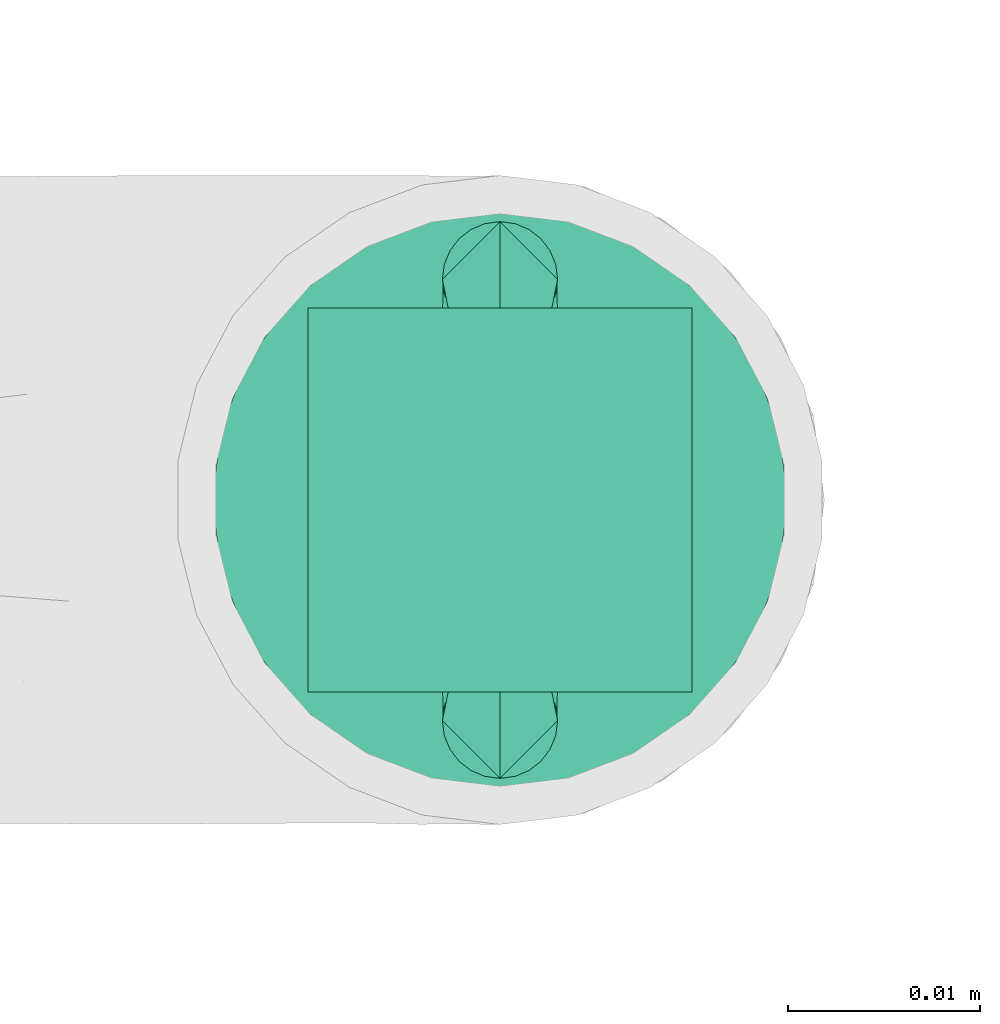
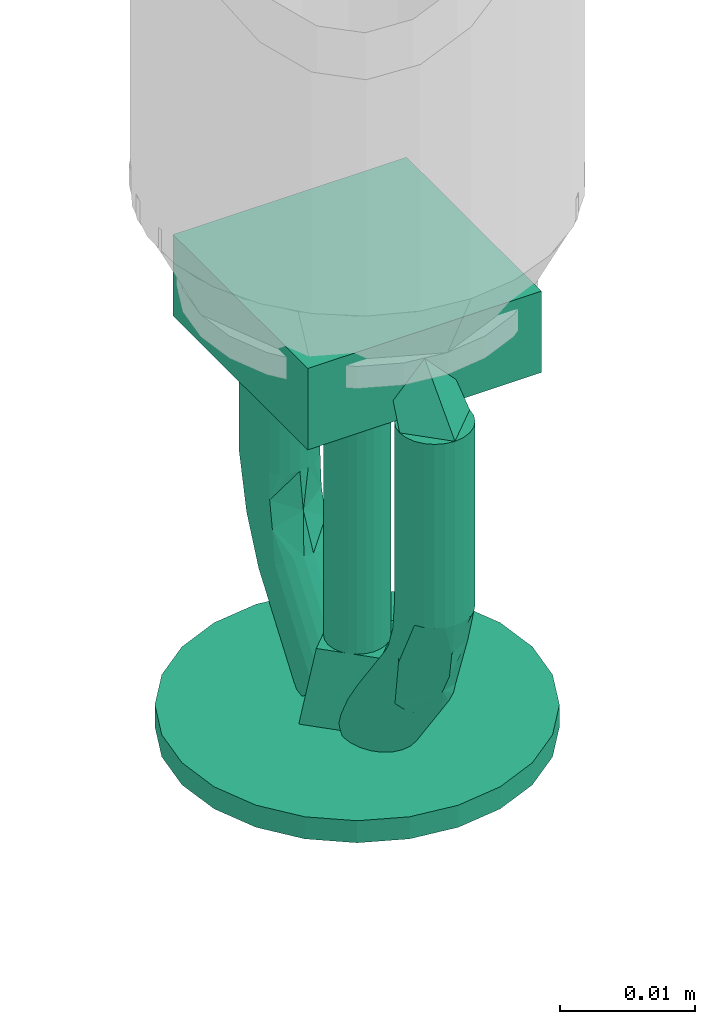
# One storey, part 14 of 43: 1 flow terminal.
"""IFC2X3 building model written with IfcOpenShell, lengths in millimetres."""

import ifcopenshell
import ifcopenshell.guid

model = None  # the IFC model being written
_history = None  # IfcOwnerHistory: only IFC2X3 demands one
_inside = {}  # id of a spatial element -> (the spatial element, [elements in it])
_under = {}  # id of a project, library or spatial element -> (it, [spatial elements below it])
_declared = {}  # id of a project -> (the project, [libraries it declares])
_typed = {}  # id of a type object -> (the type object, [elements of that type])
_made_of = {}  # id of a material, layer set ... -> (it, [elements and type objects made of it])


def new_model(schema):
    """Start an empty IFC model of exactly this schema.

    Asked for "IFC4X3", IfcOpenShell would pick the latest addendum, in which some entities
    have other attributes; the version numbers below select the first issue.
    IFC2X3 requires an IfcOwnerHistory on every rooted entity: one is made here for all.
    """
    global model, _history
    if schema == "IFC4X3":
        model = ifcopenshell.file(schema_version=(4, 3, 0, 0))
    else:
        model = ifcopenshell.file(schema=schema)
    _inside.clear()
    _under.clear()
    _declared.clear()
    _typed.clear()
    _made_of.clear()
    _history = None
    if model.schema == "IFC2X3":
        org = make("IfcOrganization", Name="unknown")
        user = make(
            "IfcPersonAndOrganization",
            ThePerson=make("IfcPerson", FamilyName="unknown"),
            TheOrganization=org,
        )
        app = make(
            "IfcApplication",
            ApplicationDeveloper=org,
            Version="unknown",
            ApplicationFullName="unknown",
            ApplicationIdentifier="unknown",
        )
        _history = make(
            "IfcOwnerHistory",
            OwningUser=user,
            OwningApplication=app,
            ChangeAction="ADDED",
            CreationDate=0,
        )
    return model


def make(cls, **values):
    """One entity of the class cls with the attributes given. An attribute that is None is left unset."""
    return model.create_entity(
        cls, **{name: value for name, value in values.items() if value is not None}
    )


def entity(cls, *values):
    """Any entity or typed value of the class cls, its attributes in the order of the schema. None: left unset."""
    e = model.create_entity(cls)
    for i, value in enumerate(values):
        if value is not None:
            e[i] = value
    return e


def rooted(cls, **values):
    """An entity with a GlobalId (a new one), such as an element, a storey or a relation."""
    return make(cls, GlobalId=ifcopenshell.guid.new(), OwnerHistory=_history, **values)


def si_unit(unit_type, name, prefix=None):
    """IfcSIUnit, for example si_unit("LENGTHUNIT", "METRE", prefix="MILLI")."""
    return make("IfcSIUnit", UnitType=unit_type, Prefix=prefix, Name=name)


def converted_unit(unit_type, name, factor, base, dimensions=None, offset=None):
    """IfcConversionBasedUnit, such as the inch: factor (a typed value) times the base unit."""
    return make(
        "IfcConversionBasedUnit"
        if offset is None
        else "IfcConversionBasedUnitWithOffset",
        ConversionOffset=offset,
        Dimensions=None
        if dimensions is None
        else entity("IfcDimensionalExponents", *dimensions),
        UnitType=unit_type,
        Name=name,
        ConversionFactor=make(
            "IfcMeasureWithUnit", ValueComponent=factor, UnitComponent=base
        ),
    )


def derived_unit(unit_type, elements):
    """IfcDerivedUnit: a product of units, each with its exponent."""
    return make(
        "IfcDerivedUnit",
        Elements=[
            make("IfcDerivedUnitElement", Unit=unit, Exponent=power)
            for unit, power in elements
        ],
        UnitType=unit_type,
    )


def assignment(units):
    """IfcUnitAssignment: the units of a project."""
    return None if units is None else make("IfcUnitAssignment", Units=units)


def point(xyz):
    """IfcCartesianPoint."""
    return None if xyz is None else make("IfcCartesianPoint", Coordinates=xyz)


def direction(xyz):
    """IfcDirection."""
    return None if xyz is None else make("IfcDirection", DirectionRatios=xyz)


def frame(location, z_axis=None, x_axis=None):
    """IfcAxis2Placement3D, a coordinate frame: its origin and axes. An axis left out is left unset."""
    return make(
        "IfcAxis2Placement3D",
        Location=point(location),
        Axis=direction(z_axis),
        RefDirection=direction(x_axis),
    )


def origin_with_axes():
    """The frame at (0, 0, 0) with the z axis (0, 0, 1) and the x axis (1, 0, 0) written out."""
    return frame((0.0, 0.0, 0.0), z_axis=(0.0, 0.0, 1.0), x_axis=(1.0, 0.0, 0.0))


def place(relative_to, where):
    """IfcLocalPlacement: puts the frame where relative to a parent placement (None: the world)."""
    return make(
        "IfcLocalPlacement", PlacementRelTo=relative_to, RelativePlacement=where
    )


def context(
    kind, dimensions, precision=None, world=None, true_north=None, identifier=None
):
    """IfcGeometricRepresentationContext, for example the 3D "Model" context."""
    return make(
        "IfcGeometricRepresentationContext",
        ContextIdentifier=identifier,
        ContextType=kind,
        CoordinateSpaceDimension=dimensions,
        Precision=precision,
        WorldCoordinateSystem=world,
        TrueNorth=true_north,
    )


def subcontext(parent, identifier, kind, view, scale=None):
    """IfcGeometricRepresentationSubContext, for example "Body" below "Model"."""
    return make(
        "IfcGeometricRepresentationSubContext",
        ContextIdentifier=identifier,
        ContextType=kind,
        ParentContext=parent,
        TargetScale=scale,
        TargetView=view,
    )


def project(units=None, contexts=None):
    """IfcProject with its units and contexts."""
    return rooted(
        "IfcProject",
        Name="project",
        RepresentationContexts=contexts,
        UnitsInContext=assignment(units),
    )


def spatial(cls, under=None, at=None, **own):
    """A site, building, storey or space (cls), placed at a placement, below another one or the project."""
    s = rooted(cls, ObjectPlacement=at, **own)
    if under is not None:
        _under.setdefault(under.id(), (under, []))[1].append(s)
    return s


def faces_of(points, faces, orient=None, outer=None):
    """IfcFace entities. A face is a list of loops; a loop is a list of indices into points, from 0.

    orient and outer hold one flag for each loop. By default every Orientation is true, the
    first loop of a face is its IfcFaceOuterBound and the others are IfcFaceBound.
    """
    made = []
    for i, loops in enumerate(faces):
        bounds = []
        for j, loop in enumerate(loops):
            is_outer = j == 0 if outer is None else outer[i][j]
            bounds.append(
                make(
                    "IfcFaceOuterBound" if is_outer else "IfcFaceBound",
                    Bound=make("IfcPolyLoop", Polygon=[points[k] for k in loop]),
                    Orientation=True if orient is None else orient[i][j],
                )
            )
        made.append(make("IfcFace", Bounds=bounds))
    return made


def open_shell(faces, orient=None, outer=None):
    """The faces of one IfcOpenShell. surface_model builds it on its shared points."""
    return ("IfcOpenShell", faces, orient, outer)


def surface_model(cls, points, shells):
    """IfcFaceBasedSurfaceModel or IfcShellBasedSurfaceModel (cls): surfaces that need not close."""
    shared = [point(p) for p in points]
    made = [make(c, CfsFaces=faces_of(shared, fs, o, b)) for c, fs, o, b in shells]
    if cls == "IfcFaceBasedSurfaceModel":
        return make(cls, FbsmFaces=made)
    return make(cls, SbsmBoundary=made)


def shape(context_of_items, identifier, shape_type, items):
    """IfcShapeRepresentation: the items that make up one representation, for example the "Body"."""
    return make(
        "IfcShapeRepresentation",
        ContextOfItems=context_of_items,
        RepresentationIdentifier=identifier,
        RepresentationType=shape_type,
        Items=items,
    )


def source(mapping_origin, context_of_items, identifier, shape_type, items):
    """IfcRepresentationMap: a shape defined once, which mapped items show again and again."""
    return make(
        "IfcRepresentationMap",
        MappingOrigin=mapping_origin,
        MappedRepresentation=shape(context_of_items, identifier, shape_type, items),
    )


def transform(
    local_origin,
    x_axis=None,
    y_axis=None,
    z_axis=None,
    scale=None,
    scale2=None,
    scale3=None,
    uniform=True,
):
    """IfcCartesianTransformationOperator3D, or its non-uniform kind. x_axis, y_axis, z_axis: its Axis1, 2, 3."""
    if uniform:
        return make(
            "IfcCartesianTransformationOperator3D",
            Axis1=direction(x_axis),
            Axis2=direction(y_axis),
            LocalOrigin=point(local_origin),
            Scale=scale,
            Axis3=direction(z_axis),
        )
    return make(
        "IfcCartesianTransformationOperator3DnonUniform",
        Axis1=direction(x_axis),
        Axis2=direction(y_axis),
        LocalOrigin=point(local_origin),
        Scale=scale,
        Axis3=direction(z_axis),
        Scale2=scale2,
        Scale3=scale3,
    )


def mapped(mapping_source, mapping_target):
    """IfcMappedItem: shows the shape of a source again, moved by a transform."""
    return make(
        "IfcMappedItem", MappingSource=mapping_source, MappingTarget=mapping_target
    )


def made_of(thing, what):
    """Note that an element or type object is made of a material, layer set ...; save() writes the relation."""
    if what is not None:
        _made_of.setdefault(what.id(), (what, []))[1].append(thing)
    return thing


def type_object(cls, material=None, **own):
    """A type object (cls), such as IfcWallType, which elements share."""
    return made_of(rooted(cls, **own), material)


def element(
    cls,
    number,
    at=None,
    inside=None,
    cuts=None,
    type_object=None,
    material=None,
    context=None,
    identifier="Body",
    shape_type=None,
    held_by="IfcProductDefinitionShape",
    body=None,
    shapes=None,
    **own,
):
    """One element of the class cls, such as IfcWall. Its Tag is "e" and its number.

    at: its placement. inside: the storey or other place that contains it. cuts: it is an
    opening in that element (IfcRelVoidsElement). A single representation is given by context,
    identifier, shape_type and body (its items); several are given by shapes. held_by: the class
    of the entity that holds the representations. save() writes the other relations.
    """
    e = rooted(cls, Tag="e%d" % number, ObjectPlacement=at, **own)
    if body is not None:
        shapes = [shape(context, identifier, shape_type, body)]
    if shapes is not None:
        e.Representation = make(held_by, Representations=shapes)
    if inside is not None:
        _inside.setdefault(inside.id(), (inside, []))[1].append(e)
    if cuts is not None:
        rooted(
            "IfcRelVoidsElement", RelatingBuildingElement=cuts, RelatedOpeningElement=e
        )
    if type_object is not None:
        _typed.setdefault(type_object.id(), (type_object, []))[1].append(e)
    return made_of(e, material)


def aggregate(whole, parts):
    """IfcRelAggregates: a whole, such as a stair, and the parts it consists of."""
    return rooted("IfcRelAggregates", RelatingObject=whole, RelatedObjects=parts)


def save(model, path):
    """Write the relations noted so far, then the file.

    IfcRelAggregates (storeys below a building ...), IfcRelContainedInSpatialStructure (elements
    in a storey), IfcRelDefinesByType, IfcRelAssociatesMaterial and IfcRelDeclares: one each for
    every whole, place, type object, material and project.
    """
    for whole, parts in _under.values():
        aggregate(whole, parts)
    for where, things in _inside.values():
        rooted(
            "IfcRelContainedInSpatialStructure",
            RelatedElements=things,
            RelatingStructure=where,
        )
    for kind, things in _typed.values():
        rooted("IfcRelDefinesByType", RelatedObjects=things, RelatingType=kind)
    for what, things in _made_of.values():
        rooted("IfcRelAssociatesMaterial", RelatedObjects=things, RelatingMaterial=what)
    for by, libraries in _declared.values():
        rooted("IfcRelDeclares", RelatingContext=by, RelatedDefinitions=libraries)
    model.write(path)


model = new_model("IFC2X3")

# Units and contexts
model_context = context("Model", 3, precision=0.01, world=frame((0.0, 4.29681676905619e-09, 0.0)), true_north=direction((4.01073788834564e-13, 1.0)))
plan_context = context("Plan", 3, precision=0.01, world=frame((0.0, 4.29681676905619e-09, 0.0)), true_north=direction((4.01073788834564e-13, 1.0)))
body_context = subcontext(model_context, "Body", "Model", "MODEL_VIEW")
ifc_project = project(units=[converted_unit("PLANEANGLEUNIT", "DEGREE", entity("IfcPositiveLengthMeasure", 0.0174532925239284), si_unit("PLANEANGLEUNIT", "RADIAN"), dimensions=[0, 0, 0, 0, 0, 0, 0]), si_unit("AREAUNIT", "SQUARE_METRE"), si_unit("LENGTHUNIT", "METRE", prefix="MILLI"), si_unit("MASSUNIT", "GRAM", prefix="KILO"), si_unit("POWERUNIT", "WATT"), si_unit("PRESSUREUNIT", "PASCAL"), si_unit("FORCEUNIT", "NEWTON", prefix="KILO"), si_unit("ELECTRICVOLTAGEUNIT", "VOLT"), si_unit("ELECTRICCURRENTUNIT", "AMPERE"), si_unit("THERMODYNAMICTEMPERATUREUNIT", "DEGREE_CELSIUS"), si_unit("TIMEUNIT", "SECOND"), si_unit("VOLUMEUNIT", "CUBIC_METRE"), derived_unit("LINEARVELOCITYUNIT", [(si_unit("LENGTHUNIT", "METRE"), 1), (si_unit("TIMEUNIT", "SECOND"), -1)]), derived_unit("VOLUMETRICFLOWRATEUNIT", [(si_unit("VOLUMEUNIT", "CUBIC_METRE"), 1), (si_unit("TIMEUNIT", "SECOND"), -1)]), derived_unit("THERMALTRANSMITTANCEUNIT", [(si_unit("POWERUNIT", "WATT"), 1), (si_unit("THERMODYNAMICTEMPERATUREUNIT", "KELVIN"), -1), (si_unit("AREAUNIT", "SQUARE_METRE"), -1)]), derived_unit("SOUNDPRESSUREUNIT", [(si_unit("PRESSUREUNIT", "PASCAL"), 1)])], contexts=[model_context, plan_context])

# Site, building, storey
site_placement = place(None, frame((0.0, -4.29681676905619e-09, 0.0), z_axis=(0.0, 0.0, 1.0), x_axis=(1.0, 0.0, 0.0)))
site = spatial("IfcSite", under=ifc_project, at=site_placement, CompositionType="ELEMENT")
building_placement = place(site_placement, frame((0.0, 4.29681676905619e-09, 0.0), z_axis=(0.0, 0.0, 1.0), x_axis=(1.0, 0.0, 0.0)))
building = spatial("IfcBuilding", under=site, at=building_placement, Name="mc-building", CompositionType="ELEMENT")
storey_placement = place(building_placement, frame((0.0, 0.0, 210900.0), z_axis=(0.0, 0.0, 1.0), x_axis=(1.0, 0.0, 0.0)))
storey = spatial("IfcBuildingStorey", under=building, at=storey_placement, Name="Nivå F", CompositionType="ELEMENT", Elevation=210900.0)

# Flow terminal
fire_suppression_terminal_type = type_object("IfcFireSuppressionTerminalType", Name="BLP-K115-141C-STD", PredefinedType="NOTDEFINED")
shared_shape = source(origin_with_axes(), body_context, "Body", "SurfaceModel", [
    surface_model("IfcShellBasedSurfaceModel", [(10.0, 10.0, 7.36842), (-10.0, 10.0, 7.36842), (-10.0, -10.0, 7.36842), (10.0, -10.0, 7.36842), (10.0, -10.0, 0.0), (-10.0, -10.0, 0.0), (-10.0, 10.0, 0.0), (10.0, 10.0, 0.0), (3.88229, -14.48889, 42.0), (-3.88229, -14.48889, 42.0), (0.0, -15.0, 42.0), (14.48889, -3.88229, 42.0), (7.5, -12.99038, 42.0), (12.99038, -7.5, 42.0), (10.6066, -10.6066, 42.0), (-10.6066, -10.6066, 42.0), (-7.5, -12.99038, 42.0), (-14.48889, -3.88229, 42.0), (-12.99038, -7.5, 42.0), (-12.99038, 7.5, 42.0), (-15.0, 0.0, 42.0), (14.48889, 3.88229, 42.0), (3.88229, 14.48889, 42.0), (12.99038, 7.5, 42.0), (10.6066, 10.6066, 42.0), (7.5, 12.99038, 42.0), (-7.5, 12.99038, 42.0), (-10.6066, 10.6066, 42.0), (-14.48889, 3.88229, 42.0), (0.0, 15.0, 42.0), (-3.88229, 14.48889, 42.0), (15.0, 0.0, 42.0), (10.6066, 10.6066, 40.0), (0.0, 15.0, 40.0), (3.88229, 14.48889, 40.0), (7.5, 12.99038, 40.0), (12.99038, 7.5, 40.0), (14.48889, 3.88229, 40.0), (-15.0, 0.0, 40.0), (-7.5, 12.99038, 40.0), (-12.99038, 7.5, 40.0), (-10.6066, 10.6066, 40.0), (-3.88229, 14.48889, 40.0), (-14.48889, 3.88229, 40.0), (15.0, 0.0, 40.0), (14.48889, -3.88229, 40.0), (-3.88229, -14.48889, 40.0), (3.88229, -14.48889, 40.0), (12.99038, -7.5, 40.0), (7.5, -12.99038, 40.0), (10.6066, -10.6066, 40.0), (-14.48889, -3.88229, 40.0), (-10.6066, -10.6066, 40.0), (-12.99038, -7.5, 40.0), (-7.5, -12.99038, 40.0), (0.0, -15.0, 40.0), (0.0, -2.5, 33.68421), (0.64705, -2.41481, 33.68421), (1.25, -2.16506, 33.68421), (-1.25, -2.16506, 33.68421), (2.16506, -1.25, 33.68421), (1.76777, -1.76777, 33.68421), (-1.25, 2.16506, 33.68421), (-2.16506, -1.25, 33.68421), (-1.76777, -1.76777, 33.68421), (-0.64705, -2.41481, 33.68421), (-2.41481, -0.64705, 33.68421), (-2.5, 0.0, 33.68421), (-2.41481, 0.64705, 33.68421), (2.41481, -0.64705, 33.68421), (1.25, 2.16506, 33.68421), (2.5, 0.0, 33.68421), (2.41481, 0.64705, 33.68421), (1.76777, 1.76777, 33.68421), (2.16506, 1.25, 33.68421), (0.64705, 2.41481, 33.68421), (-1.76777, 1.76777, 33.68421), (-2.16506, 1.25, 33.68421), (0.0, 2.5, 33.68421), (-0.64705, 2.41481, 33.68421), (0.0, 2.5, 7.36842), (0.64705, 2.41481, 7.36842), (1.25, 2.16506, 7.36842), (-1.25, 2.16506, 7.36842), (1.76777, 1.76777, 7.36842), (2.16506, 1.25, 7.36842), (2.41481, 0.64705, 7.36842), (-2.41481, 0.64705, 7.36842), (-1.76777, 1.76777, 7.36842), (-0.64705, 2.41481, 7.36842), (-2.16506, 1.25, 7.36842), (-2.5, 0.0, 7.36842), (2.5, 0.0, 7.36842), (2.41481, -0.64705, 7.36842), (2.16506, -1.25, 7.36842), (-1.25, -2.16506, 7.36842), (1.25, -2.16506, 7.36842), (1.76777, -1.76777, 7.36842), (0.0, -2.5, 7.36842), (0.64705, -2.41481, 7.36842), (-2.16506, -1.25, 7.36842), (-1.76777, -1.76777, 7.36842), (-2.41481, -0.64705, 7.36842), (-0.64705, -2.41481, 7.36842), (0.0, -5.0, 40.0), (5.0, 0.0, 40.0), (-5.0, 0.0, 40.0), (0.0, 5.0, 40.0), (3.5, 0.0, 33.68421), (0.0, -3.5, 33.68421), (0.0, 3.5, 33.68421), (-3.5, 0.0, 33.68421), (13.0, -2.59808, 7.36842), (12.27646, -2.89778, 7.36842), (11.5, -3.0, 7.36842), (10.72354, -2.89778, 7.36842), (14.09808, -1.5, 7.36842), (13.62132, -2.12132, 7.36842), (14.39778, -0.77646, 7.36842), (10.0, -2.59808, 7.36842), (9.37868, -2.12132, 7.36842), (8.60222, -0.77646, 7.36842), (8.90192, -1.5, 7.36842), (8.5, 0.0, 7.36842), (8.60222, 0.77646, 7.36842), (14.5, 0.0, 7.36842), (14.09808, 1.5, 7.36842), (14.39778, 0.77646, 7.36842), (13.0, 2.59808, 7.36842), (13.62132, 2.12132, 7.36842), (12.27646, 2.89778, 7.36842), (8.90192, 1.5, 7.36842), (9.37868, 2.12132, 7.36842), (10.0, 2.59808, 7.36842), (10.72354, 2.89778, 7.36842), (11.5, 3.0, 7.36842), (8.60222, 0.77646, 21.40351), (8.5, 0.0, 21.40351), (8.90192, 1.5, 21.40351), (9.37868, 2.12132, 21.40351), (10.0, 2.59808, 21.40351), (10.72354, 2.89778, 21.40351), (11.5, 3.0, 21.40351), (13.0, 2.59808, 21.40351), (12.27646, 2.89778, 21.40351), (13.62132, 2.12132, 21.40351), (14.09808, 1.5, 21.40351), (14.39778, 0.77646, 21.40351), (14.5, 0.0, 21.40351), (14.39778, -0.77646, 21.40351), (14.09808, -1.5, 21.40351), (13.62132, -2.12132, 21.40351), (13.0, -2.59808, 21.40351), (12.27646, -2.89778, 21.40351), (11.5, -3.0, 21.40351), (10.0, -2.59808, 21.40351), (10.72354, -2.89778, 21.40351), (9.37868, -2.12132, 21.40351), (8.90192, -1.5, 21.40351), (8.60222, -0.77646, 21.40351), (8.60222, 0.77646, 24.01797), (8.5, 0.0, 24.01797), (8.90192, 1.5, 24.01797), (9.37868, 2.12132, 24.01797), (10.0, 2.59808, 24.01797), (10.72354, 2.89778, 24.01797), (11.5, 3.0, 24.01797), (13.0, 2.59808, 24.01797), (12.27646, 2.89778, 24.01797), (13.62132, 2.12132, 24.01797), (14.09808, 1.5, 24.01797), (14.39778, 0.77646, 24.01797), (14.5, 0.0, 24.01797), (14.39778, -0.77646, 24.01797), (14.09808, -1.5, 24.01797), (13.62132, -2.12132, 24.01797), (13.0, -2.59808, 24.01797), (12.27646, -2.89778, 24.01797), (11.5, -3.0, 24.01797), (10.0, -2.59808, 24.01797), (10.72354, -2.89778, 24.01797), (9.37868, -2.12132, 24.01797), (8.90192, -1.5, 24.01797), (8.60222, -0.77646, 24.01797), (14.03116, 0.0, 26.95469), (8.89443, 3.0, 31.97044), (11.26864, 2.96638, 28.30794), (8.26852, 2.89778, 31.51096), (13.68288, 0.0, 29.13626), (9.23197, 2.26965, 26.65145), (7.98113, 0.0, 27.26812), (8.39468, 2.17743, 28.77318), (6.47609, 0.0, 30.19515), (6.55849, 0.77646, 30.25565), (6.80009, 1.5, 30.433), (7.1844, 2.12132, 30.71512), (11.23037, 0.77646, 33.68523), (11.31277, 0.0, 33.74572), (12.67267, 0.0, 31.10095), (7.68526, 2.59808, 31.0828), (9.52034, 2.89778, 32.42991), (10.1036, 2.59808, 32.85808), (10.60445, 2.12132, 33.22575), (10.98877, 1.5, 33.50787), (11.26864, -2.96638, 28.30794), (9.20533, -2.17689, 26.29582), (8.63781, -2.27879, 28.50134), (10.1036, -2.59808, 32.85808), (9.52034, -2.89778, 32.42991), (8.89443, -3.0, 31.97044), (10.98877, -1.5, 33.50787), (10.60445, -2.12132, 33.22575), (11.23037, -0.77646, 33.68523), (6.55849, -0.77646, 30.25565), (8.26852, -2.89778, 31.51096), (7.68526, -2.59808, 31.0828), (7.1844, -2.12132, 30.71512), (6.80009, -1.5, 30.433), (3.0, -3.0, 40.0), (3.62591, -2.89778, 40.45948), (4.20917, -2.59808, 40.88764), (5.09434, -1.5, 41.53744), (1.28997, -2.12132, 38.74469), (4.71003, -2.12132, 41.25532), (1.79083, 2.59808, 39.11236), (0.90566, -1.5, 38.46256), (1.79083, -2.59808, 39.11236), (2.37409, -2.89778, 39.54052), (0.58166, 0.0, 38.22472), (0.66406, -0.77646, 38.28521), (1.28997, 2.12132, 38.74469), (5.33594, -0.77646, 41.71479), (4.71003, 2.12132, 41.25532), (5.33594, 0.77646, 41.71479), (5.09434, 1.5, 41.53744), (4.20917, 2.59808, 40.88764), (3.62591, 2.89778, 40.45948), (3.0, 3.0, 40.0), (0.66406, 0.77646, 38.28521), (0.90566, 1.5, 38.46256), (2.37409, 2.89778, 39.54052), (5.41834, 0.0, 41.77528), (-10.0, -2.59808, 7.36842), (-10.72354, -2.89778, 7.36842), (-11.5, -3.0, 7.36842), (-12.27646, -2.89778, 7.36842), (-8.60222, -0.77646, 7.36842), (-8.90192, -1.5, 7.36842), (-9.37868, -2.12132, 7.36842), (-13.0, -2.59808, 7.36842), (-13.62132, -2.12132, 7.36842), (-14.39778, -0.77646, 7.36842), (-14.09808, -1.5, 7.36842), (-14.5, 0.0, 7.36842), (-10.0, 2.59808, 7.36842), (-8.90192, 1.5, 7.36842), (-8.60222, 0.77646, 7.36842), (-14.39778, 0.77646, 7.36842), (-9.37868, 2.12132, 7.36842), (-10.72354, 2.89778, 7.36842), (-14.09808, 1.5, 7.36842), (-13.62132, 2.12132, 7.36842), (-13.0, 2.59808, 7.36842), (-12.27646, 2.89778, 7.36842), (-11.5, 3.0, 7.36842), (-8.5, 0.0, 7.36842), (-14.39778, 0.77646, 21.40351), (-14.5, 0.0, 21.40351), (-14.09808, 1.5, 21.40351), (-13.62132, 2.12132, 21.40351), (-13.0, 2.59808, 21.40351), (-12.27646, 2.89778, 21.40351), (-11.5, 3.0, 21.40351), (-10.0, 2.59808, 21.40351), (-10.72354, 2.89778, 21.40351), (-9.37868, 2.12132, 21.40351), (-8.90192, 1.5, 21.40351), (-8.60222, 0.77646, 21.40351), (-8.5, 0.0, 21.40351), (-8.60222, -0.77646, 21.40351), (-8.90192, -1.5, 21.40351), (-9.37868, -2.12132, 21.40351), (-10.0, -2.59808, 21.40351), (-10.72354, -2.89778, 21.40351), (-11.5, -3.0, 21.40351), (-13.0, -2.59808, 21.40351), (-12.27646, -2.89778, 21.40351), (-13.62132, -2.12132, 21.40351), (-14.09808, -1.5, 21.40351), (-14.39778, -0.77646, 21.40351), (-14.39778, 0.77646, 24.01797), (-14.5, 0.0, 24.01797), (-14.09808, 1.5, 24.01797), (-13.62132, 2.12132, 24.01797), (-13.0, 2.59808, 24.01797), (-12.27646, 2.89778, 24.01797), (-11.5, 3.0, 24.01797), (-10.0, 2.59808, 24.01797), (-10.72354, 2.89778, 24.01797), (-9.37868, 2.12132, 24.01797), (-8.90192, 1.5, 24.01797), (-8.60222, 0.77646, 24.01797), (-8.5, 0.0, 24.01797), (-8.60222, -0.77646, 24.01797), (-8.90192, -1.5, 24.01797), (-9.37868, -2.12132, 24.01797), (-10.0, -2.59808, 24.01797), (-10.72354, -2.89778, 24.01797), (-11.5, -3.0, 24.01797), (-13.0, -2.59808, 24.01797), (-12.27646, -2.89778, 24.01797), (-13.62132, -2.12132, 24.01797), (-14.09808, -1.5, 24.01797), (-14.39778, -0.77646, 24.01797), (-14.03116, 0.0, 26.95469), (-11.26864, 2.96638, 28.30794), (-9.20533, 2.17689, 26.29582), (-7.98113, 0.0, 27.26812), (-13.68288, 0.0, 29.13626), (-12.67267, 0.0, 31.10095), (-8.63781, 2.27879, 28.50134), (-10.1036, 2.59808, 32.85808), (-9.52034, 2.89778, 32.42991), (-8.89443, 3.0, 31.97044), (-10.98877, 1.5, 33.50787), (-10.60445, 2.12132, 33.22575), (-11.23037, 0.77646, 33.68523), (-11.31277, 0.0, 33.74572), (-6.55849, 0.77646, 30.25565), (-6.47609, 0.0, 30.19515), (-8.26852, 2.89778, 31.51096), (-7.68526, 2.59808, 31.0828), (-7.1844, 2.12132, 30.71512), (-6.80009, 1.5, 30.433), (-8.89443, -3.0, 31.97044), (-11.26864, -2.96638, 28.30794), (-8.26852, -2.89778, 31.51096), (-9.23197, -2.26965, 26.65145), (-8.39468, -2.17743, 28.77318), (-6.55849, -0.77646, 30.25565), (-6.80009, -1.5, 30.433), (-7.1844, -2.12132, 30.71512), (-11.23037, -0.77646, 33.68523), (-7.68526, -2.59808, 31.0828), (-9.52034, -2.89778, 32.42991), (-10.1036, -2.59808, 32.85808), (-10.60445, -2.12132, 33.22575), (-10.98877, -1.5, 33.50787), (-3.62591, -2.89778, 40.45948), (-3.0, -3.0, 40.0), (-2.37409, -2.89778, 39.54052), (-1.79083, -2.59808, 39.11236), (-1.28997, -2.12132, 38.74469), (-0.90566, -1.5, 38.46256), (-0.66406, -0.77646, 38.28521), (-4.71003, -2.12132, 41.25532), (-4.20917, -2.59808, 40.88764), (-5.09434, -1.5, 41.53744), (-5.41834, 0.0, 41.77528), (-5.33594, -0.77646, 41.71479), (-4.20917, 2.59808, 40.88764), (-5.33594, 0.77646, 41.71479), (-0.58166, 0.0, 38.22472), (-0.66406, 0.77646, 38.28521), (-0.90566, 1.5, 38.46256), (-1.28997, 2.12132, 38.74469), (-1.79083, 2.59808, 39.11236), (-2.37409, 2.89778, 39.54052), (-3.0, 3.0, 40.0), (-4.71003, 2.12132, 41.25532), (-5.09434, 1.5, 41.53744), (-3.62591, 2.89778, 40.45948), (-6.5, 2.0, 1.0), (-4.5, 0.0, 1.0), (-6.5, -2.0, 1.0), (-8.5, 0.0, 1.0), (-7.5, 1.0, 1.0), (-13.0, 1.5, 7.36842), (-10.16667, 1.66667, 7.36842), (-5.5, 1.0, 1.0), (-5.5, -1.0, 1.0), (-10.0, -1.5, 7.36842), (-12.83333, -1.66667, 7.36842), (-7.5, -1.0, 1.0), (4.5, 0.0, 1.0), (6.5, 2.0, 1.0), (8.5, 0.0, 1.0), (6.5, -2.0, 1.0), (5.5, -1.0, 1.0), (12.83333, -1.66667, 7.36842), (10.16667, -1.66667, 7.36842), (7.5, -1.0, 1.0), (7.5, 1.0, 1.0), (10.16667, 1.66667, 7.36842), (12.83333, 1.66667, 7.36842), (5.5, 1.0, 1.0)], [open_shell([[[0, 1, 2]], [[2, 3, 0]], [[4, 5, 6]], [[6, 7, 4]], [[2, 1, 6]], [[6, 5, 2]], [[3, 2, 5]], [[5, 4, 3]], [[0, 3, 4]], [[4, 7, 0]], [[1, 0, 7]], [[7, 6, 1]], [[8, 9, 10]], [[11, 8, 12]], [[13, 11, 12]], [[13, 12, 14]], [[9, 8, 11]], [[9, 15, 16]], [[15, 9, 17]], [[15, 17, 18]], [[9, 11, 17]], [[17, 19, 20]], [[17, 11, 19]], [[19, 11, 21]], [[22, 21, 23]], [[24, 25, 22]], [[24, 22, 23]], [[19, 21, 22]], [[19, 26, 27]], [[28, 20, 19]], [[26, 29, 30]], [[29, 26, 19]], [[22, 29, 19]], [[11, 31, 21]], [[32, 33, 34]], [[32, 34, 35]], [[32, 36, 37]], [[33, 32, 38]], [[38, 32, 37]], [[39, 40, 41]], [[39, 42, 33]], [[40, 38, 43]], [[39, 33, 40]], [[33, 38, 40]], [[37, 44, 38]], [[45, 46, 44]], [[47, 45, 48]], [[49, 47, 48]], [[49, 48, 50]], [[46, 45, 47]], [[51, 52, 53]], [[52, 51, 46]], [[52, 46, 54]], [[51, 44, 46]], [[47, 55, 46]], [[44, 51, 38]], [[51, 17, 38]], [[53, 18, 51]], [[16, 52, 54]], [[53, 52, 15]], [[9, 54, 46]], [[51, 18, 17]], [[17, 20, 38]], [[9, 16, 54]], [[15, 52, 16]], [[15, 18, 53]], [[10, 9, 46]], [[46, 55, 10]], [[47, 8, 55]], [[49, 12, 47]], [[13, 50, 48]], [[49, 50, 14]], [[11, 48, 45]], [[49, 14, 12]], [[12, 8, 47]], [[31, 11, 45]], [[13, 48, 11]], [[13, 14, 50]], [[44, 31, 45]], [[55, 8, 10]], [[37, 21, 44]], [[36, 23, 37]], [[25, 32, 35]], [[36, 32, 24]], [[22, 35, 34]], [[37, 23, 21]], [[21, 31, 44]], [[22, 25, 35]], [[24, 32, 25]], [[24, 23, 36]], [[29, 22, 34]], [[34, 33, 29]], [[42, 30, 33]], [[39, 26, 42]], [[19, 41, 40]], [[39, 41, 27]], [[28, 40, 43]], [[39, 27, 26]], [[26, 30, 42]], [[20, 28, 43]], [[19, 40, 28]], [[19, 27, 41]], [[38, 20, 43]], [[33, 30, 29]], [[56, 57, 58]], [[59, 56, 58]], [[58, 60, 59]], [[60, 58, 61]], [[60, 62, 59]], [[59, 63, 64]], [[59, 65, 56]], [[59, 66, 63]], [[66, 59, 67]], [[59, 68, 67]], [[62, 60, 69]], [[70, 71, 72]], [[73, 72, 74]], [[62, 69, 70]], [[70, 72, 73]], [[62, 70, 75]], [[68, 76, 77]], [[76, 68, 62]], [[62, 78, 79]], [[68, 59, 62]], [[75, 78, 62]], [[70, 69, 71]], [[80, 81, 82]], [[83, 80, 82]], [[84, 85, 86]], [[83, 82, 84]], [[83, 84, 86]], [[83, 87, 88]], [[83, 89, 80]], [[88, 87, 90]], [[87, 83, 91]], [[86, 91, 83]], [[86, 92, 91]], [[92, 93, 94]], [[95, 92, 94]], [[95, 94, 96]], [[96, 94, 97]], [[98, 96, 99]], [[100, 95, 101]], [[95, 100, 102]], [[95, 98, 103]], [[102, 91, 95]], [[96, 98, 95]], [[95, 91, 92]], [[102, 66, 91]], [[100, 63, 102]], [[59, 101, 95]], [[100, 101, 64]], [[65, 95, 103]], [[102, 63, 66]], [[66, 67, 91]], [[65, 59, 95]], [[64, 101, 59]], [[64, 63, 100]], [[56, 65, 103]], [[103, 98, 56]], [[99, 57, 98]], [[96, 58, 99]], [[60, 97, 94]], [[96, 97, 61]], [[69, 94, 93]], [[96, 61, 58]], [[58, 57, 99]], [[71, 69, 93]], [[60, 94, 69]], [[60, 61, 97]], [[92, 71, 93]], [[98, 57, 56]], [[86, 72, 92]], [[85, 74, 86]], [[70, 84, 82]], [[85, 84, 73]], [[75, 82, 81]], [[86, 74, 72]], [[72, 71, 92]], [[75, 70, 82]], [[73, 84, 70]], [[73, 74, 85]], [[78, 75, 81]], [[81, 80, 78]], [[89, 79, 80]], [[83, 62, 89]], [[77, 88, 90]], [[83, 88, 76]], [[68, 90, 87]], [[83, 76, 62]], [[62, 79, 89]], [[67, 68, 87]], [[77, 90, 68]], [[77, 76, 88]], [[91, 67, 87]], [[80, 79, 78]], [[104, 105, 106]], [[107, 106, 105]], [[108, 109, 110]], [[111, 110, 109]], [[106, 111, 104]], [[104, 111, 109]], [[109, 108, 105]], [[109, 105, 104]], [[105, 108, 107]], [[107, 108, 110]], [[110, 111, 106]], [[110, 106, 107]], [[112, 113, 114]], [[112, 114, 115]], [[116, 112, 115]], [[117, 112, 116]], [[118, 116, 119]], [[120, 121, 119]], [[116, 115, 119]], [[122, 121, 120]], [[121, 118, 119]], [[121, 123, 124]], [[125, 118, 121]], [[126, 127, 125]], [[126, 125, 124]], [[124, 128, 126]], [[129, 126, 128]], [[128, 124, 130]], [[131, 132, 124]], [[133, 124, 132]], [[134, 135, 133]], [[124, 133, 135]], [[135, 130, 124]], [[121, 124, 125]], [[136, 123, 137]], [[138, 124, 136]], [[132, 139, 140]], [[138, 139, 131]], [[133, 140, 141]], [[138, 131, 124]], [[124, 123, 136]], [[134, 142, 135]], [[134, 133, 141]], [[132, 140, 133]], [[132, 131, 139]], [[142, 134, 141]], [[143, 130, 144]], [[145, 128, 143]], [[126, 146, 147]], [[145, 146, 129]], [[127, 147, 148]], [[143, 128, 130]], [[130, 135, 144]], [[127, 126, 147]], [[129, 146, 126]], [[129, 128, 145]], [[125, 127, 148]], [[144, 135, 142]], [[149, 125, 148]], [[150, 118, 149]], [[117, 151, 152]], [[150, 151, 116]], [[112, 152, 153]], [[150, 116, 118]], [[118, 125, 149]], [[113, 154, 114]], [[113, 112, 153]], [[117, 152, 112]], [[117, 116, 151]], [[154, 113, 153]], [[155, 115, 156]], [[157, 119, 155]], [[122, 158, 159]], [[157, 158, 120]], [[121, 159, 137]], [[155, 119, 115]], [[115, 114, 156]], [[121, 122, 159]], [[120, 158, 122]], [[120, 119, 157]], [[123, 121, 137]], [[156, 114, 154]], [[160, 137, 161]], [[162, 136, 160]], [[139, 163, 164]], [[162, 163, 138]], [[140, 164, 165]], [[162, 138, 136]], [[136, 137, 160]], [[141, 166, 142]], [[141, 140, 165]], [[139, 164, 140]], [[139, 138, 163]], [[166, 141, 165]], [[167, 144, 168]], [[169, 143, 167]], [[146, 170, 171]], [[169, 170, 145]], [[147, 171, 172]], [[167, 143, 144]], [[144, 142, 168]], [[147, 146, 171]], [[145, 170, 146]], [[145, 143, 169]], [[148, 147, 172]], [[168, 142, 166]], [[173, 148, 172]], [[174, 149, 173]], [[151, 175, 176]], [[174, 175, 150]], [[152, 176, 177]], [[174, 150, 149]], [[149, 148, 173]], [[153, 178, 154]], [[153, 152, 177]], [[151, 176, 152]], [[151, 150, 175]], [[178, 153, 177]], [[179, 156, 180]], [[181, 155, 179]], [[158, 182, 183]], [[181, 182, 157]], [[159, 183, 161]], [[179, 155, 156]], [[156, 154, 180]], [[159, 158, 183]], [[157, 182, 158]], [[157, 155, 181]], [[137, 159, 161]], [[180, 154, 178]], [[170, 184, 171]], [[185, 186, 187]], [[188, 184, 186]], [[165, 186, 166]], [[189, 160, 190]], [[163, 162, 189]], [[190, 191, 189]], [[160, 189, 162]], [[189, 186, 165]], [[164, 163, 189]], [[184, 172, 171]], [[170, 169, 184]], [[184, 167, 186]], [[184, 169, 167]], [[168, 186, 167]], [[166, 186, 168]], [[160, 161, 190]], [[192, 193, 191]], [[193, 194, 191]], [[195, 191, 194]], [[191, 190, 192]], [[191, 187, 186]], [[196, 197, 198]], [[191, 199, 187]], [[200, 186, 185]], [[189, 165, 164]], [[191, 195, 199]], [[201, 202, 198]], [[200, 201, 186]], [[198, 203, 196]], [[198, 188, 186]], [[198, 202, 203]], [[201, 198, 186]], [[189, 191, 186]], [[174, 184, 175]], [[176, 175, 184]], [[204, 176, 184]], [[178, 177, 204]], [[204, 177, 176]], [[173, 184, 174]], [[205, 190, 161]], [[188, 198, 204]], [[205, 204, 206]], [[205, 179, 180]], [[205, 181, 179]], [[182, 205, 183]], [[161, 183, 205]], [[181, 205, 182]], [[180, 204, 205]], [[173, 172, 184]], [[188, 204, 184]], [[204, 198, 207]], [[207, 208, 204]], [[190, 205, 206]], [[208, 209, 204]], [[198, 210, 211]], [[198, 211, 207]], [[212, 198, 197]], [[213, 192, 190]], [[213, 190, 206]], [[210, 198, 212]], [[214, 204, 209]], [[214, 215, 206]], [[206, 216, 217]], [[206, 204, 214]], [[216, 206, 215]], [[213, 206, 217]], [[178, 204, 180]], [[218, 219, 220]], [[218, 220, 221]], [[218, 221, 222]], [[221, 220, 223]], [[221, 224, 225]], [[218, 226, 227]], [[218, 222, 226]], [[225, 228, 229]], [[222, 221, 225]], [[225, 230, 228]], [[221, 231, 232]], [[231, 233, 232]], [[232, 233, 234]], [[232, 235, 236]], [[232, 224, 221]], [[237, 232, 236]], [[238, 230, 239]], [[238, 228, 230]], [[232, 240, 224]], [[225, 224, 230]], [[237, 240, 232]], [[241, 233, 231]], [[238, 192, 228]], [[239, 193, 238]], [[195, 230, 224]], [[239, 230, 194]], [[199, 224, 240]], [[239, 194, 193]], [[193, 192, 238]], [[187, 237, 185]], [[187, 199, 240]], [[195, 224, 199]], [[195, 194, 230]], [[237, 187, 240]], [[235, 200, 236]], [[232, 201, 235]], [[203, 234, 233]], [[232, 234, 202]], [[196, 233, 241]], [[235, 201, 200]], [[200, 185, 236]], [[196, 203, 233]], [[202, 234, 203]], [[202, 201, 232]], [[197, 196, 241]], [[236, 185, 237]], [[231, 197, 241]], [[221, 212, 231]], [[211, 223, 220]], [[221, 223, 210]], [[207, 220, 219]], [[221, 210, 212]], [[212, 197, 231]], [[208, 218, 209]], [[208, 207, 219]], [[211, 220, 207]], [[211, 210, 223]], [[218, 208, 219]], [[226, 214, 227]], [[222, 215, 226]], [[217, 225, 229]], [[222, 225, 216]], [[213, 229, 228]], [[226, 215, 214]], [[214, 209, 227]], [[213, 217, 229]], [[216, 225, 217]], [[216, 215, 222]], [[192, 213, 228]], [[227, 209, 218]], [[242, 243, 244]], [[242, 244, 245]], [[246, 247, 248]], [[242, 246, 248]], [[246, 242, 249]], [[250, 251, 249]], [[242, 245, 249]], [[252, 251, 250]], [[249, 251, 246]], [[253, 254, 251]], [[254, 246, 251]], [[246, 255, 256]], [[246, 254, 255]], [[257, 254, 253]], [[258, 255, 254]], [[259, 254, 257]], [[260, 261, 257]], [[262, 257, 261]], [[263, 264, 262]], [[257, 262, 264]], [[264, 259, 257]], [[256, 265, 246]], [[266, 253, 267]], [[268, 257, 266]], [[261, 269, 270]], [[268, 269, 260]], [[262, 270, 271]], [[268, 260, 257]], [[257, 253, 266]], [[263, 272, 264]], [[263, 262, 271]], [[261, 270, 262]], [[261, 260, 269]], [[272, 263, 271]], [[273, 259, 274]], [[275, 254, 273]], [[255, 276, 277]], [[275, 276, 258]], [[256, 277, 278]], [[273, 254, 259]], [[259, 264, 274]], [[256, 255, 277]], [[258, 276, 255]], [[258, 254, 275]], [[265, 256, 278]], [[274, 264, 272]], [[279, 265, 278]], [[280, 246, 279]], [[248, 281, 282]], [[280, 281, 247]], [[242, 282, 283]], [[280, 247, 246]], [[246, 265, 279]], [[243, 284, 244]], [[243, 242, 283]], [[248, 282, 242]], [[248, 247, 281]], [[284, 243, 283]], [[285, 245, 286]], [[287, 249, 285]], [[252, 288, 289]], [[287, 288, 250]], [[251, 289, 267]], [[285, 249, 245]], [[245, 244, 286]], [[251, 252, 289]], [[250, 288, 252]], [[250, 249, 287]], [[253, 251, 267]], [[286, 244, 284]], [[290, 267, 291]], [[292, 266, 290]], [[269, 293, 294]], [[292, 293, 268]], [[270, 294, 295]], [[292, 268, 266]], [[266, 267, 290]], [[271, 296, 272]], [[271, 270, 295]], [[269, 294, 270]], [[269, 268, 293]], [[296, 271, 295]], [[297, 274, 298]], [[299, 273, 297]], [[276, 300, 301]], [[299, 300, 275]], [[277, 301, 302]], [[297, 273, 274]], [[274, 272, 298]], [[277, 276, 301]], [[275, 300, 276]], [[275, 273, 299]], [[278, 277, 302]], [[298, 272, 296]], [[303, 278, 302]], [[304, 279, 303]], [[281, 305, 306]], [[304, 305, 280]], [[282, 306, 307]], [[304, 280, 279]], [[279, 278, 303]], [[283, 308, 284]], [[283, 282, 307]], [[281, 306, 282]], [[281, 280, 305]], [[308, 283, 307]], [[309, 286, 310]], [[311, 285, 309]], [[288, 312, 313]], [[311, 312, 287]], [[289, 313, 291]], [[309, 285, 286]], [[286, 284, 310]], [[289, 288, 313]], [[287, 312, 288]], [[287, 285, 311]], [[267, 289, 291]], [[310, 284, 308]], [[292, 314, 293]], [[294, 293, 314]], [[315, 294, 314]], [[296, 295, 315]], [[315, 295, 294]], [[290, 314, 292]], [[316, 317, 302]], [[318, 319, 315]], [[316, 315, 320]], [[316, 297, 298]], [[316, 299, 297]], [[300, 316, 301]], [[302, 301, 316]], [[299, 316, 300]], [[298, 315, 316]], [[290, 291, 314]], [[318, 315, 314]], [[315, 319, 321]], [[321, 322, 315]], [[317, 316, 320]], [[322, 323, 315]], [[319, 324, 325]], [[319, 325, 321]], [[326, 319, 327]], [[328, 329, 317]], [[328, 317, 320]], [[324, 319, 326]], [[330, 315, 323]], [[330, 331, 320]], [[320, 332, 333]], [[320, 315, 330]], [[332, 320, 331]], [[328, 320, 333]], [[296, 315, 298]], [[312, 314, 313]], [[334, 335, 336]], [[318, 314, 335]], [[307, 335, 308]], [[337, 303, 317]], [[305, 304, 337]], [[317, 338, 337]], [[303, 337, 304]], [[337, 335, 307]], [[306, 305, 337]], [[314, 291, 313]], [[312, 311, 314]], [[314, 309, 335]], [[314, 311, 309]], [[310, 335, 309]], [[308, 335, 310]], [[303, 302, 317]], [[329, 339, 338]], [[339, 340, 338]], [[341, 338, 340]], [[338, 317, 329]], [[338, 336, 335]], [[342, 327, 319]], [[338, 343, 336]], [[344, 335, 334]], [[337, 307, 306]], [[338, 341, 343]], [[345, 346, 319]], [[344, 345, 335]], [[319, 347, 342]], [[319, 318, 335]], [[319, 346, 347]], [[345, 319, 335]], [[337, 338, 335]], [[348, 349, 350]], [[351, 348, 350]], [[352, 353, 354]], [[352, 354, 351]], [[348, 351, 354]], [[348, 355, 356]], [[355, 348, 357]], [[357, 358, 359]], [[360, 357, 348]], [[357, 361, 358]], [[360, 348, 354]], [[362, 363, 364]], [[364, 360, 354]], [[360, 365, 366]], [[364, 365, 360]], [[366, 367, 368]], [[361, 369, 370]], [[369, 361, 360]], [[360, 368, 371]], [[361, 357, 360]], [[366, 368, 360]], [[364, 354, 362]], [[361, 327, 358]], [[370, 326, 361]], [[325, 369, 360]], [[370, 369, 324]], [[321, 360, 371]], [[370, 324, 326]], [[326, 327, 361]], [[322, 368, 323]], [[322, 321, 371]], [[325, 360, 321]], [[325, 324, 369]], [[368, 322, 371]], [[366, 330, 367]], [[365, 331, 366]], [[333, 364, 363]], [[365, 364, 332]], [[328, 363, 362]], [[366, 331, 330]], [[330, 323, 367]], [[328, 333, 363]], [[332, 364, 333]], [[332, 331, 365]], [[329, 328, 362]], [[367, 323, 368]], [[354, 329, 362]], [[353, 339, 354]], [[341, 352, 351]], [[353, 352, 340]], [[343, 351, 350]], [[353, 340, 339]], [[339, 329, 354]], [[336, 349, 334]], [[336, 343, 350]], [[341, 351, 343]], [[341, 340, 352]], [[349, 336, 350]], [[356, 344, 348]], [[355, 345, 356]], [[347, 357, 359]], [[355, 357, 346]], [[342, 359, 358]], [[356, 345, 344]], [[344, 334, 348]], [[347, 359, 342]], [[346, 357, 347]], [[346, 345, 355]], [[358, 327, 342]], [[348, 334, 349]], [[372, 373, 374]], [[374, 375, 372]], [[265, 264, 253]], [[253, 244, 265]], [[264, 372, 376]], [[377, 375, 253]], [[375, 377, 376]], [[264, 378, 379]], [[379, 372, 264]], [[264, 376, 377]], [[378, 373, 379]], [[378, 265, 373]], [[244, 374, 380]], [[381, 373, 265]], [[373, 381, 380]], [[244, 382, 383]], [[383, 374, 244]], [[244, 380, 381]], [[382, 375, 383]], [[382, 253, 375]], [[135, 123, 114]], [[114, 125, 135]], [[384, 385, 386]], [[386, 387, 384]], [[388, 387, 114]], [[386, 125, 389]], [[114, 390, 388]], [[390, 123, 384]], [[391, 114, 387]], [[114, 391, 389]], [[391, 386, 389]], [[390, 384, 388]], [[392, 385, 135]], [[384, 123, 393]], [[135, 394, 392]], [[394, 125, 386]], [[395, 135, 385]], [[135, 395, 393]], [[395, 384, 393]], [[394, 386, 392]]])]),
])
flow_terminal_placement = place(storey_placement, frame((607999.57252, 690202.7492, 2395.5), z_axis=(0.0, 0.0, -1.0), x_axis=(0.0, 1.0, 0.0)))
element("IfcFlowTerminal", 1, at=flow_terminal_placement, inside=storey, type_object=fire_suppression_terminal_type, Name="BLP-K115-141C-STD", context=body_context, shape_type="MappedRepresentation", body=[
    mapped(shared_shape, transform((0.0, 0.0, 0.0), scale=1.0)),
])

save(model, "model.ifc")
